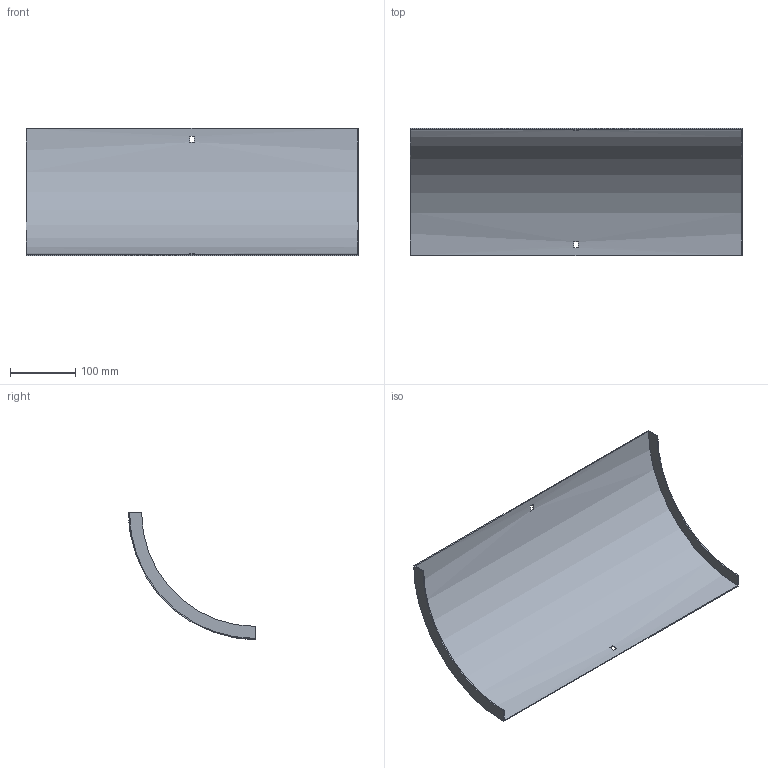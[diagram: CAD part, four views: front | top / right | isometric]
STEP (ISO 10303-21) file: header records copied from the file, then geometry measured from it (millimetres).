
FILE_DESCRIPTION (( 'STEP AP214' ), '1' );
FILE_NAME ('33N1I500.step', '2025-02-21T09:19:46', ( '' ), ( '' ), 'SwSTEP 2.0', 'SolidWorks 2023', '' );
FILE_SCHEMA (( 'AUTOMOTIVE_DESIGN' ));
Length unit declared in the file: millimetre
Products named in the file (1): 33N1I500
Bounding box: 507 x 194 x 194 mm (x, y, z)
Volume: 246654.1 mm3; surface area: 331420.9 mm2
Topology: 1 solids, 1 shells, 18 faces, 48 edges, 32 vertices
Faces by surface type: plane 14, cylinder 4
Entity records: 599 total; most frequent: DIRECTION 102, CARTESIAN_POINT 99, ORIENTED_EDGE 96, EDGE_CURVE 48, AXIS2_PLACEMENT_3D 35, VERTEX_POINT 32, VECTOR 32, LINE 32
